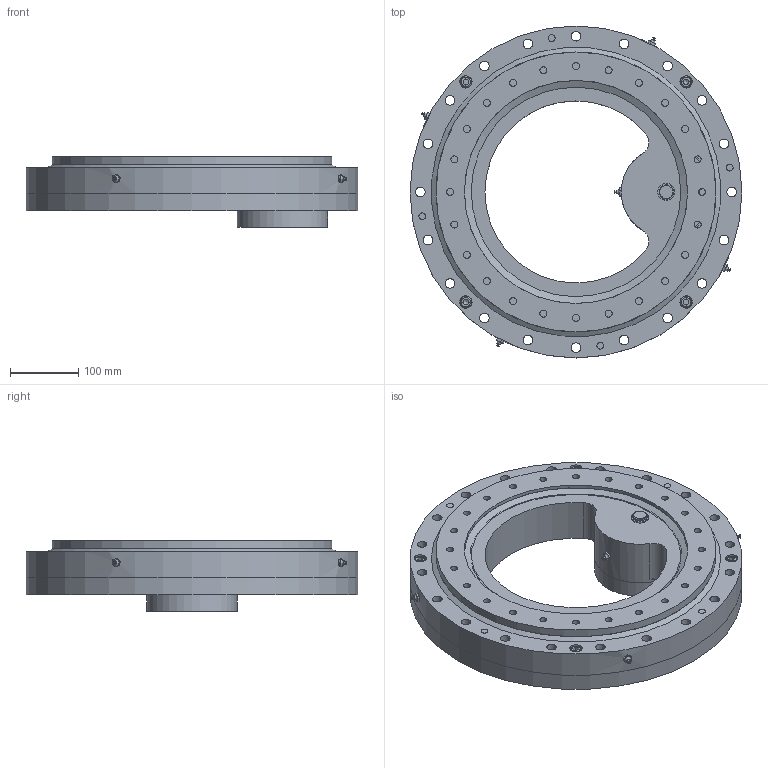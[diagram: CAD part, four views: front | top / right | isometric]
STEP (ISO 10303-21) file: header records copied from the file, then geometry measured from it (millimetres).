
FILE_DESCRIPTION(/* description */ ('STEP AP214'),/* implementation_level */ '2;1');
FILE_NAME(/* name */ '\\Serwer-ad\dnia$\dnia_tomasz_tb\Desktop\Tomcio\1. Cenniki + katalogi + materiały\U- Transmission\Katalogi 2023\Wersja NATECH DRV\Inner gear - slew drive\Our inner gear slew drive STEP\PT-L-0411-I-B-S.stp',/* time_stamp */ '2024-04-30T10:17:35+02:00',/* author */ ('dnia_tomasz_tb'),/* organization */ (''),/* preprocessor_version */ 'ST-DEVELOPER v19',/* originating_system */ 'Autodesk Inventor 2023',/* authorisation */ '');
FILE_SCHEMA (('AUTOMOTIVE_DESIGN { 1 0 10303 214 3 1 1 }'));
Length unit declared in the file: millimetre
Products named in the file (1): PT-L-0411-I-B-S
Bounding box: 485 x 485 x 103 mm (x, y, z)
Surface area: 702209.1 mm2 (no closed solid volume)
Topology: 0 solids, 45 shells, 318 faces, 903 edges, 610 vertices
Faces by surface type: plane 167, cylinder 113, cone 19, torus 19
Full cylindrical faces by diameter (mm): 2 x5, 8.5 x4, 10 x4, 10.2 x28, 13 x1, 14 x20, 15 x8, 16 x20, 18 x4, 21 x1, 25 x1, 45 x1, 65 x1, 66 x1, 82.58 x1, 132 x1, 326 x1, 409 x1, 485 x2
Entity records: 11819 total; most frequent: CARTESIAN_POINT 2585, DIRECTION 1924, ORIENTED_EDGE 1501, EDGE_CURVE 897, AXIS2_PLACEMENT_3D 718, VERTEX_POINT 610, EDGE_LOOP 524, LINE 488
